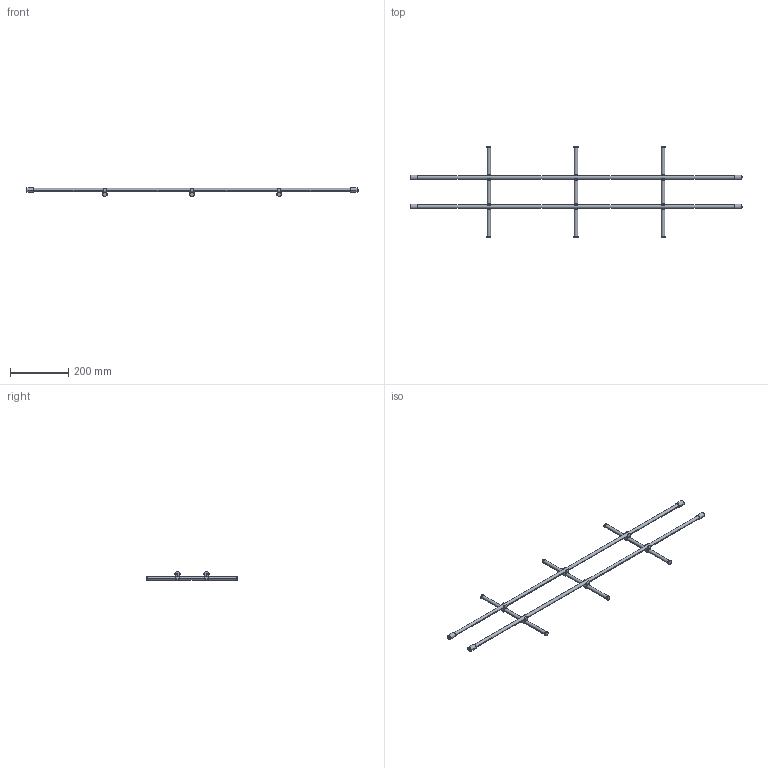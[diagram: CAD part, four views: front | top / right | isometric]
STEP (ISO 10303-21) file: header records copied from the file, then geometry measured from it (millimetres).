
FILE_DESCRIPTION (( 'STEP AP214' ), '1' );
FILE_NAME ('Magic-Classic_NL-350-KAB 1200.step', '2010-09-16T12:49:31', ( 'grass' ), ( '' ), 'SwSTEP 2.0', 'SolidWorks 2010', '' );
FILE_SCHEMA (( 'AUTOMOTIVE_DESIGN' ));
Length unit declared in the file: millimetre
Products named in the file (1): Magic-Classic_NL-350-KAB 1200
Bounding box: 1143 x 315 x 30.45 mm (x, y, z)
Volume: 389420.1 mm3; surface area: 129632.1 mm2
Topology: 1 solids, 1 shells, 190 faces, 534 edges, 356 vertices
Faces by surface type: plane 104, cylinder 86
Entity records: 6260 total; most frequent: DIRECTION 1136, CARTESIAN_POINT 1081, ORIENTED_EDGE 1068, EDGE_CURVE 534, AXIS2_PLACEMENT_3D 411, VERTEX_POINT 356, VECTOR 314, LINE 314
